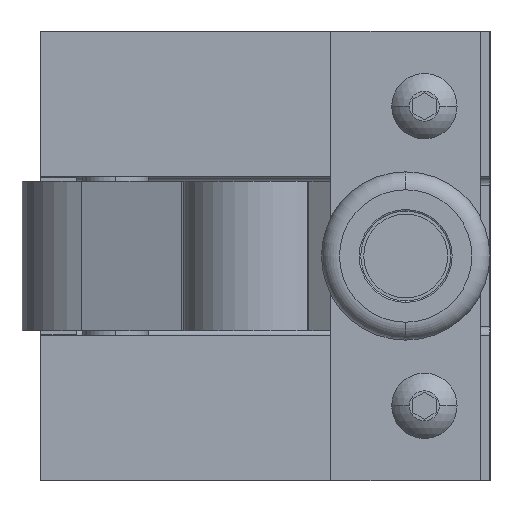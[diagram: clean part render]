
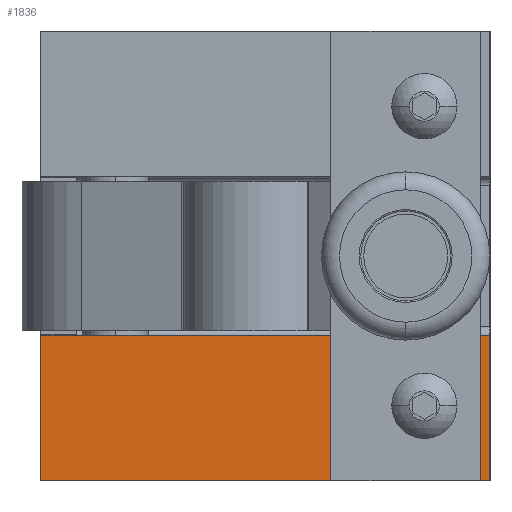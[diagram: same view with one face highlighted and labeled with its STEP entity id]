
A CAD part, left-side view. The second image highlights one B-rep face of the part: STEP entity #1836.
In plain terms, the highlighted planar face has unit normal (-1, 0, 0).
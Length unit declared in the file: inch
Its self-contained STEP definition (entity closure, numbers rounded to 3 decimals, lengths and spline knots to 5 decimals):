
#1817 = ORIENTED_EDGE ( 'NONE', *, *, #6864, .F. ) ;
#1827 = EDGE_LOOP ( 'NONE', ( #1874, #1817 ) ) ;
#1836 = ADVANCED_FACE ( 'NONE', ( #9801, #9800 ), #9799, .T. ) ;
#1839 = ORIENTED_EDGE ( 'NONE', *, *, #1840, .F. ) ;
#1840 = EDGE_CURVE ( 'NONE', #6993, #1841, #9866, .T. ) ;
#1841 = VERTEX_POINT ( 'NONE', #9690 ) ;
#1842 = ORIENTED_EDGE ( 'NONE', *, *, #7132, .F. ) ;
#1843 = ORIENTED_EDGE ( 'NONE', *, *, #1844, .T. ) ;
#1844 = EDGE_CURVE ( 'NONE', #6901, #1992, #9688, .T. ) ;
#1874 = ORIENTED_EDGE ( 'NONE', *, *, #1981, .F. ) ;
#1981 = EDGE_CURVE ( 'NONE', #6865, #7046, #10139, .T. ) ;
#1991 = EDGE_LOOP ( 'NONE', ( #1839, #1842, #1843, #1993 ) ) ;
#1992 = VERTEX_POINT ( 'NONE', #9994 ) ;
#1993 = ORIENTED_EDGE ( 'NONE', *, *, #2052, .T. ) ;
#2052 = EDGE_CURVE ( 'NONE', #1992, #1841, #10278, .T. ) ;
#6864 = EDGE_CURVE ( 'NONE', #7046, #6865, #15087, .T. ) ;
#6865 = VERTEX_POINT ( 'NONE', #15019 ) ;
#6901 = VERTEX_POINT ( 'NONE', #15070 ) ;
#6993 = VERTEX_POINT ( 'NONE', #15177 ) ;
#7046 = VERTEX_POINT ( 'NONE', #15791 ) ;
#7132 = EDGE_CURVE ( 'NONE', #6901, #6993, #16182, .T. ) ;
#9664 = DIRECTION ( 'NONE',  ( 0., -1., 0. ) ) ;
#9665 = VECTOR ( 'NONE', #9664, 39.37008 ) ;
#9667 = CARTESIAN_POINT ( 'NONE',  ( 5.66064, 2.77171, -3. ) ) ;
#9682 = DIRECTION ( 'NONE',  ( 0., 0., 1. ) ) ;
#9684 = DIRECTION ( 'NONE',  ( -1., 0., 0. ) ) ;
#9685 = CARTESIAN_POINT ( 'NONE',  ( 5.66064, 2.77171, -3. ) ) ;
#9686 = AXIS2_PLACEMENT_3D ( 'NONE', #9685, #9684, #9682 ) ;
#9688 = LINE ( 'NONE', #9667, #9665 ) ;
#9690 = CARTESIAN_POINT ( 'NONE',  ( 5.66064, 2.77171, -2.03 ) ) ;
#9692 = DIRECTION ( 'NONE',  ( 0., -1., 0. ) ) ;
#9694 = VECTOR ( 'NONE', #9692, 39.37008 ) ;
#9695 = CARTESIAN_POINT ( 'NONE',  ( 5.66064, 2.77171, -2.03 ) ) ;
#9799 = PLANE ( 'NONE',  #9686 ) ;
#9800 = FACE_OUTER_BOUND ( 'NONE', #1991, .T. ) ;
#9801 = FACE_BOUND ( 'NONE', #1827, .T. ) ;
#9866 = LINE ( 'NONE', #9695, #9694 ) ;
#9994 = CARTESIAN_POINT ( 'NONE',  ( 5.66064, 2.77171, -3. ) ) ;
#10137 = CARTESIAN_POINT ( 'NONE',  ( 5.66064, 3.20971, -2.5 ) ) ;
#10138 = AXIS2_PLACEMENT_3D ( 'NONE', #10137, #10231, #10229 ) ;
#10139 = CIRCLE ( 'NONE', #10138, 0.125 ) ;
#10229 = DIRECTION ( 'NONE',  ( 0., 0., 1. ) ) ;
#10231 = DIRECTION ( 'NONE',  ( -1., 0., 0. ) ) ;
#10278 = LINE ( 'NONE', #10292, #10290 ) ;
#10289 = DIRECTION ( 'NONE',  ( 0., 0., 1. ) ) ;
#10290 = VECTOR ( 'NONE', #10289, 39.37008 ) ;
#10292 = CARTESIAN_POINT ( 'NONE',  ( 5.66064, 2.77171, -3. ) ) ;
#14895 = DIRECTION ( 'NONE',  ( 0., 0., 1. ) ) ;
#14897 = AXIS2_PLACEMENT_3D ( 'NONE', #15074, #14942, #14895 ) ;
#14942 = DIRECTION ( 'NONE',  ( -1., 0., 0. ) ) ;
#15019 = CARTESIAN_POINT ( 'NONE',  ( 5.66064, 3.20971, -2.375 ) ) ;
#15070 = CARTESIAN_POINT ( 'NONE',  ( 5.66064, 5.77171, -3. ) ) ;
#15074 = CARTESIAN_POINT ( 'NONE',  ( 5.66064, 3.20971, -2.5 ) ) ;
#15087 = CIRCLE ( 'NONE', #14897, 0.125 ) ;
#15177 = CARTESIAN_POINT ( 'NONE',  ( 5.66064, 5.77171, -2.03 ) ) ;
#15791 = CARTESIAN_POINT ( 'NONE',  ( 5.66064, 3.20971, -2.625 ) ) ;
#16179 = DIRECTION ( 'NONE',  ( 0., 0., 1. ) ) ;
#16180 = VECTOR ( 'NONE', #16179, 39.37008 ) ;
#16181 = CARTESIAN_POINT ( 'NONE',  ( 5.66064, 5.77171, -3. ) ) ;
#16182 = LINE ( 'NONE', #16181, #16180 ) ;
